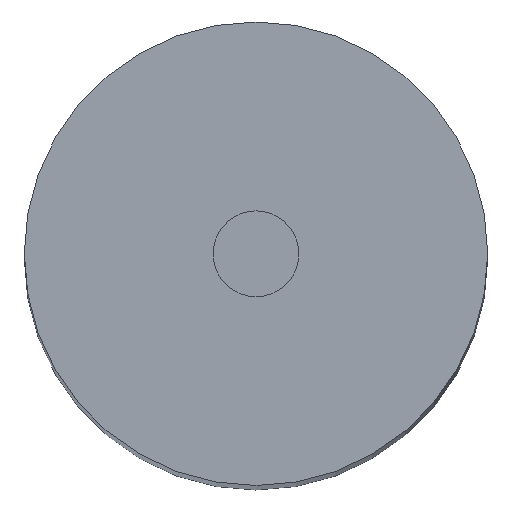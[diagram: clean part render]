
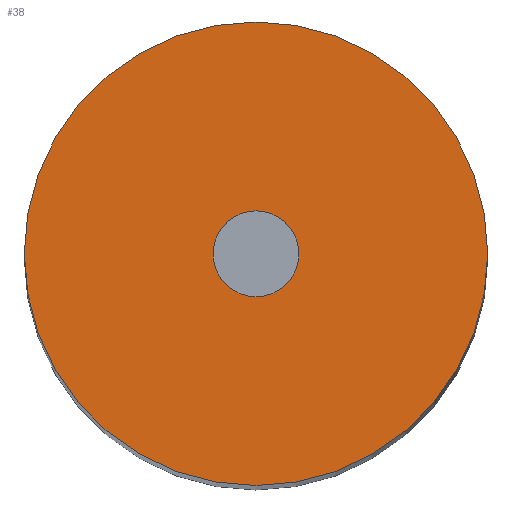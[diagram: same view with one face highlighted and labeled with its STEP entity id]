
A CAD part, top view. The second image highlights one B-rep face of the part: STEP entity #38.
In plain terms, the highlighted planar face has unit normal (0, 0, 1).
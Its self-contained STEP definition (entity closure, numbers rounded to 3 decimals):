
#7 = EDGE_LOOP ( 'NONE', ( #8, #10 ) ) ;
#8 = ORIENTED_EDGE ( 'NONE', *, *, #9, .F. ) ;
#9 = EDGE_CURVE ( 'NONE', #138, #136, #54, .T. ) ;
#10 = ORIENTED_EDGE ( 'NONE', *, *, #137, .F. ) ;
#11 = EDGE_LOOP ( 'NONE', ( #12, #15 ) ) ;
#12 = ORIENTED_EDGE ( 'NONE', *, *, #100, .T. ) ;
#15 = ORIENTED_EDGE ( 'NONE', *, *, #37, .T. ) ;
#37 = EDGE_CURVE ( 'NONE', #133, #101, #281, .T. ) ;
#38 = ADVANCED_FACE ( 'NONE', ( #277, #276 ), #275, .T. ) ;
#50 = DIRECTION ( 'NONE',  ( 1., 0., 0. ) ) ;
#51 = DIRECTION ( 'NONE',  ( 0., 0., 1. ) ) ;
#52 = CARTESIAN_POINT ( 'NONE',  ( 0., 0., 0. ) ) ;
#53 = AXIS2_PLACEMENT_3D ( 'NONE', #52, #51, #50 ) ;
#54 = CIRCLE ( 'NONE', #53, 0.5 ) ;
#100 = EDGE_CURVE ( 'NONE', #101, #133, #347, .T. ) ;
#101 = VERTEX_POINT ( 'NONE', #342 ) ;
#133 = VERTEX_POINT ( 'NONE', #458 ) ;
#136 = VERTEX_POINT ( 'NONE', #453 ) ;
#137 = EDGE_CURVE ( 'NONE', #136, #138, #452, .T. ) ;
#138 = VERTEX_POINT ( 'NONE', #447 ) ;
#271 = DIRECTION ( 'NONE',  ( 1., 0., 0. ) ) ;
#272 = DIRECTION ( 'NONE',  ( 0., 0., 1. ) ) ;
#273 = CARTESIAN_POINT ( 'NONE',  ( 0., 0., 0. ) ) ;
#274 = AXIS2_PLACEMENT_3D ( 'NONE', #273, #272, #271 ) ;
#275 = PLANE ( 'NONE',  #274 ) ;
#276 = FACE_OUTER_BOUND ( 'NONE', #11, .T. ) ;
#277 = FACE_BOUND ( 'NONE', #7, .T. ) ;
#278 = DIRECTION ( 'NONE',  ( 1., 0., 0. ) ) ;
#279 = DIRECTION ( 'NONE',  ( 0., 0., 1. ) ) ;
#280 = AXIS2_PLACEMENT_3D ( 'NONE', #286, #279, #278 ) ;
#281 = CIRCLE ( 'NONE', #280, 2.7 ) ;
#286 = CARTESIAN_POINT ( 'NONE',  ( 0., 0., 0. ) ) ;
#342 = CARTESIAN_POINT ( 'NONE',  ( 2.7, 0., 0. ) ) ;
#343 = DIRECTION ( 'NONE',  ( 1., 0., 0. ) ) ;
#344 = DIRECTION ( 'NONE',  ( 0., 0., 1. ) ) ;
#345 = CARTESIAN_POINT ( 'NONE',  ( 0., 0., 0. ) ) ;
#346 = AXIS2_PLACEMENT_3D ( 'NONE', #345, #344, #343 ) ;
#347 = CIRCLE ( 'NONE', #346, 2.7 ) ;
#447 = CARTESIAN_POINT ( 'NONE',  ( 0.5, 0., 0. ) ) ;
#448 = DIRECTION ( 'NONE',  ( 1., 0., 0. ) ) ;
#449 = DIRECTION ( 'NONE',  ( 0., 0., 1. ) ) ;
#450 = CARTESIAN_POINT ( 'NONE',  ( 0., 0., 0. ) ) ;
#451 = AXIS2_PLACEMENT_3D ( 'NONE', #450, #449, #448 ) ;
#452 = CIRCLE ( 'NONE', #451, 0.5 ) ;
#453 = CARTESIAN_POINT ( 'NONE',  ( -0.5, 0., 0. ) ) ;
#458 = CARTESIAN_POINT ( 'NONE',  ( -2.7, 0., 0. ) ) ;
